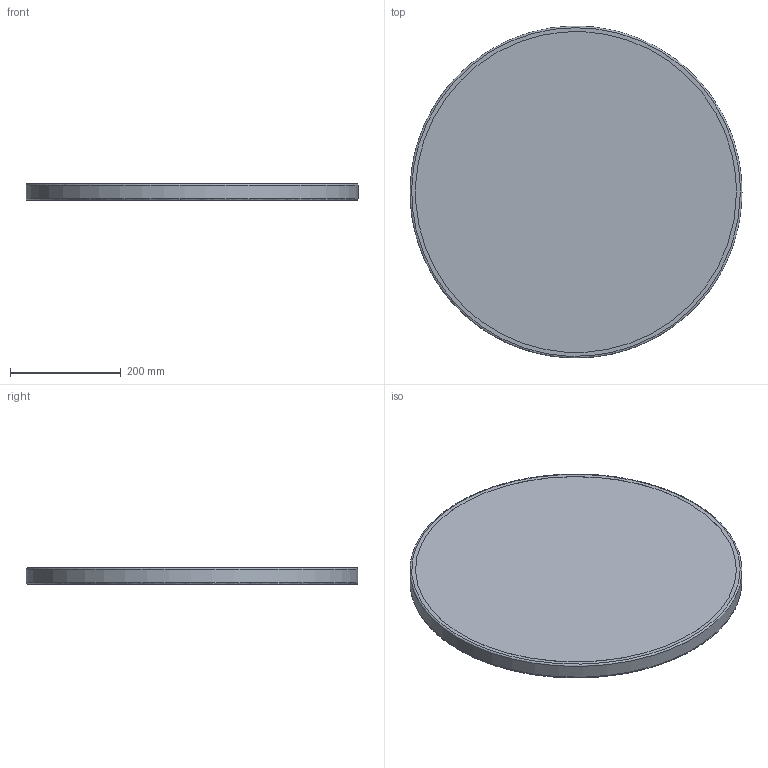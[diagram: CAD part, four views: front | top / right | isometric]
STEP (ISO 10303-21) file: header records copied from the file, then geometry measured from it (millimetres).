
FILE_DESCRIPTION(/* description */ (''),/* implementation_level */ '2;1');
FILE_NAME(/* name */ 'kinoshita_abord_tt010-600Φ',/* time_stamp */ '2025-08-27T17:39:36+09:00',/* author */ (''),/* organization */ (''),/* preprocessor_version */ 'ST-DEVELOPER v16.5',/* originating_system */ '',/* authorisation */ '');
FILE_SCHEMA (('AUTOMOTIVE_DESIGN'));
Length unit declared in the file: millimetre
Products named in the file (1): Document
Bounding box: 599.99 x 599.66 x 30 mm (x, y, z)
Volume: 8516700.1 mm3; surface area: 1151842.1 mm2
Topology: 2 solids, 2 shells, 11 faces, 14 edges, 9 vertices
Faces by surface type: plane 6, bspline 5
Entity records: 352 total; most frequent: CARTESIAN_POINT 218, ORIENTED_EDGE 28, EDGE_CURVE 14, EDGE_LOOP 13, ADVANCED_FACE 11, FACE_OUTER_BOUND 11, DIRECTION 10, VERTEX_POINT 9
